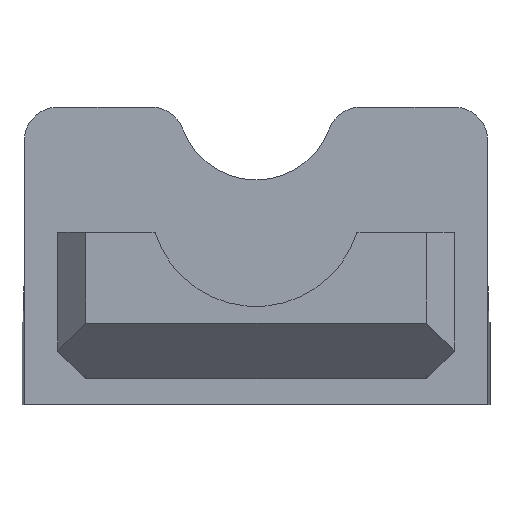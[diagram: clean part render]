
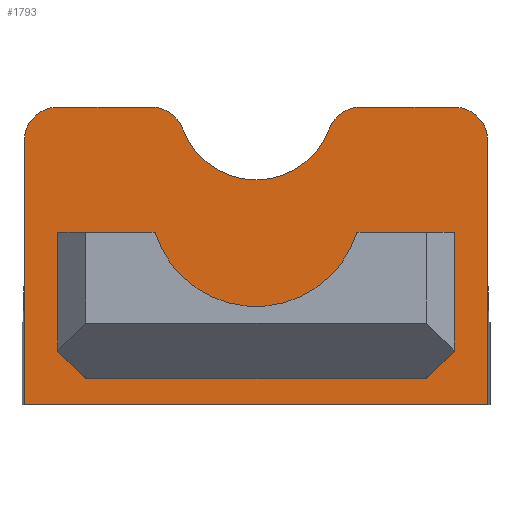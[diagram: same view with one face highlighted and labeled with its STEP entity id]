
A CAD part, left-side view. The second image highlights one B-rep face of the part: STEP entity #1793.
In plain terms, the highlighted planar face has unit normal (-1, 0, 0).
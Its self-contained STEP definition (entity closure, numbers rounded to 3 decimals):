
#39=FACE_BOUND('',#322,.T.);
#92=PLANE('',#1984);
#200=FACE_OUTER_BOUND('',#321,.T.);
#321=EDGE_LOOP('',(#1568,#1569,#1570,#1571,#1572,#1573,#1574,#1575,#1576,
#1577));
#322=EDGE_LOOP('',(#1578,#1579,#1580,#1581,#1582,#1583));
#475=LINE('',#2951,#655);
#483=LINE('',#2980,#663);
#485=LINE('',#2983,#665);
#486=LINE('',#2985,#666);
#487=LINE('',#2989,#667);
#488=LINE('',#2997,#668);
#489=LINE('',#2999,#669);
#490=LINE('',#3003,#670);
#491=LINE('',#3005,#671);
#492=LINE('',#3006,#672);
#655=VECTOR('',#2439,10.);
#663=VECTOR('',#2467,10.);
#665=VECTOR('',#2471,10.);
#666=VECTOR('',#2472,10.);
#667=VECTOR('',#2475,10.);
#668=VECTOR('',#2482,10.);
#669=VECTOR('',#2483,10.);
#670=VECTOR('',#2486,10.);
#671=VECTOR('',#2487,10.);
#672=VECTOR('',#2488,10.);
#765=CIRCLE('',#1982,3.);
#766=CIRCLE('',#1985,3.);
#767=CIRCLE('',#1986,3.);
#768=CIRCLE('',#1987,7.);
#769=CIRCLE('',#1988,3.);
#770=CIRCLE('',#1989,9.5);
#882=VERTEX_POINT('',#2948);
#883=VERTEX_POINT('',#2950);
#892=VERTEX_POINT('',#2973);
#893=VERTEX_POINT('',#2974);
#894=VERTEX_POINT('',#2979);
#895=VERTEX_POINT('',#2984);
#896=VERTEX_POINT('',#2986);
#897=VERTEX_POINT('',#2988);
#898=VERTEX_POINT('',#2990);
#899=VERTEX_POINT('',#2992);
#900=VERTEX_POINT('',#2995);
#901=VERTEX_POINT('',#2996);
#902=VERTEX_POINT('',#2998);
#903=VERTEX_POINT('',#3000);
#904=VERTEX_POINT('',#3002);
#905=VERTEX_POINT('',#3004);
#1111=EDGE_CURVE('',#882,#883,#475,.T.);
#1122=EDGE_CURVE('',#892,#893,#765,.T.);
#1125=EDGE_CURVE('',#894,#893,#483,.T.);
#1127=EDGE_CURVE('',#892,#883,#485,.T.);
#1128=EDGE_CURVE('',#882,#895,#486,.T.);
#1129=EDGE_CURVE('',#896,#895,#766,.T.);
#1130=EDGE_CURVE('',#896,#897,#487,.T.);
#1131=EDGE_CURVE('',#898,#897,#767,.T.);
#1132=EDGE_CURVE('',#898,#899,#768,.T.);
#1133=EDGE_CURVE('',#894,#899,#769,.T.);
#1134=EDGE_CURVE('',#900,#901,#488,.T.);
#1135=EDGE_CURVE('',#901,#902,#489,.T.);
#1136=EDGE_CURVE('',#902,#903,#770,.T.);
#1137=EDGE_CURVE('',#903,#904,#490,.T.);
#1138=EDGE_CURVE('',#904,#905,#491,.T.);
#1139=EDGE_CURVE('',#905,#900,#492,.T.);
#1568=ORIENTED_EDGE('',*,*,#1127,.T.);
#1569=ORIENTED_EDGE('',*,*,#1111,.F.);
#1570=ORIENTED_EDGE('',*,*,#1128,.T.);
#1571=ORIENTED_EDGE('',*,*,#1129,.F.);
#1572=ORIENTED_EDGE('',*,*,#1130,.T.);
#1573=ORIENTED_EDGE('',*,*,#1131,.F.);
#1574=ORIENTED_EDGE('',*,*,#1132,.T.);
#1575=ORIENTED_EDGE('',*,*,#1133,.F.);
#1576=ORIENTED_EDGE('',*,*,#1125,.T.);
#1577=ORIENTED_EDGE('',*,*,#1122,.F.);
#1578=ORIENTED_EDGE('',*,*,#1134,.T.);
#1579=ORIENTED_EDGE('',*,*,#1135,.T.);
#1580=ORIENTED_EDGE('',*,*,#1136,.T.);
#1581=ORIENTED_EDGE('',*,*,#1137,.T.);
#1582=ORIENTED_EDGE('',*,*,#1138,.T.);
#1583=ORIENTED_EDGE('',*,*,#1139,.T.);
#1793=ADVANCED_FACE('',(#200,#39),#92,.F.);
#1982=AXIS2_PLACEMENT_3D('',#2975,#2461,#2462);
#1984=AXIS2_PLACEMENT_3D('',#2982,#2469,#2470);
#1985=AXIS2_PLACEMENT_3D('',#2987,#2473,#2474);
#1986=AXIS2_PLACEMENT_3D('',#2991,#2476,#2477);
#1987=AXIS2_PLACEMENT_3D('',#2993,#2478,#2479);
#1988=AXIS2_PLACEMENT_3D('',#2994,#2480,#2481);
#1989=AXIS2_PLACEMENT_3D('',#3001,#2484,#2485);
#2439=DIRECTION('',(0.,1.,0.));
#2461=DIRECTION('center_axis',(1.,0.,0.));
#2462=DIRECTION('ref_axis',(0.,0.707,0.707));
#2467=DIRECTION('',(0.,1.,0.));
#2469=DIRECTION('center_axis',(1.,0.,0.));
#2470=DIRECTION('ref_axis',(0.,1.,0.));
#2471=DIRECTION('',(0.,0.,-1.));
#2472=DIRECTION('',(0.,0.,1.));
#2473=DIRECTION('center_axis',(1.,0.,0.));
#2474=DIRECTION('ref_axis',(0.,-0.707,0.707));
#2475=DIRECTION('',(0.,1.,0.));
#2476=DIRECTION('center_axis',(1.,0.,0.));
#2477=DIRECTION('ref_axis',(0.,0.572,0.82));
#2478=DIRECTION('center_axis',(1.,0.,0.));
#2479=DIRECTION('ref_axis',(0.,1.,0.));
#2480=DIRECTION('center_axis',(1.,0.,0.));
#2481=DIRECTION('ref_axis',(0.,-0.572,0.82));
#2482=DIRECTION('',(0.,0.,1.));
#2483=DIRECTION('',(0.,-1.,0.));
#2484=DIRECTION('center_axis',(-1.,0.,0.));
#2485=DIRECTION('ref_axis',(0.,1.,0.));
#2486=DIRECTION('',(0.,-1.,0.));
#2487=DIRECTION('',(0.,0.,-1.));
#2488=DIRECTION('',(0.,1.,0.));
#2948=CARTESIAN_POINT('',(96.15,969.2,-114.478));
#2950=CARTESIAN_POINT('',(96.15,1010.8,-114.478));
#2951=CARTESIAN_POINT('',(96.15,969.2,-114.478));
#2973=CARTESIAN_POINT('',(96.15,1010.8,-90.76));
#2974=CARTESIAN_POINT('',(96.15,1007.8,-87.76));
#2975=CARTESIAN_POINT('Origin',(96.15,1007.8,-90.76));
#2979=CARTESIAN_POINT('',(96.15,999.382,-87.76));
#2980=CARTESIAN_POINT('',(96.15,969.2,-87.76));
#2982=CARTESIAN_POINT('Origin',(96.15,990.,-99.942));
#2983=CARTESIAN_POINT('',(96.15,1010.8,-106.033));
#2984=CARTESIAN_POINT('',(96.15,969.2,-90.76));
#2985=CARTESIAN_POINT('',(96.15,969.2,-93.851));
#2986=CARTESIAN_POINT('',(96.15,972.2,-87.76));
#2987=CARTESIAN_POINT('Origin',(96.15,972.2,-90.76));
#2988=CARTESIAN_POINT('',(96.15,980.618,-87.76));
#2989=CARTESIAN_POINT('',(96.15,969.2,-87.76));
#2990=CARTESIAN_POINT('',(96.15,983.433,-89.722));
#2991=CARTESIAN_POINT('Origin',(96.15,980.618,-90.76));
#2992=CARTESIAN_POINT('',(96.15,996.567,-89.722));
#2993=CARTESIAN_POINT('Origin',(96.15,990.,-87.298));
#2994=CARTESIAN_POINT('Origin',(96.15,999.382,-90.76));
#2995=CARTESIAN_POINT('',(96.15,1005.3,-112.15));
#2996=CARTESIAN_POINT('',(96.15,1005.3,-99.));
#2997=CARTESIAN_POINT('',(96.15,1005.3,-106.046));
#2998=CARTESIAN_POINT('',(96.15,999.062,-99.));
#2999=CARTESIAN_POINT('',(96.15,990.,-99.));
#3000=CARTESIAN_POINT('',(96.15,980.938,-99.));
#3001=CARTESIAN_POINT('Origin',(96.15,990.,-96.15));
#3002=CARTESIAN_POINT('',(96.15,974.7,-99.));
#3003=CARTESIAN_POINT('',(96.15,990.,-99.));
#3004=CARTESIAN_POINT('',(96.15,974.7,-112.15));
#3005=CARTESIAN_POINT('',(96.15,974.7,-100.));
#3006=CARTESIAN_POINT('',(96.15,990.,-112.15));
